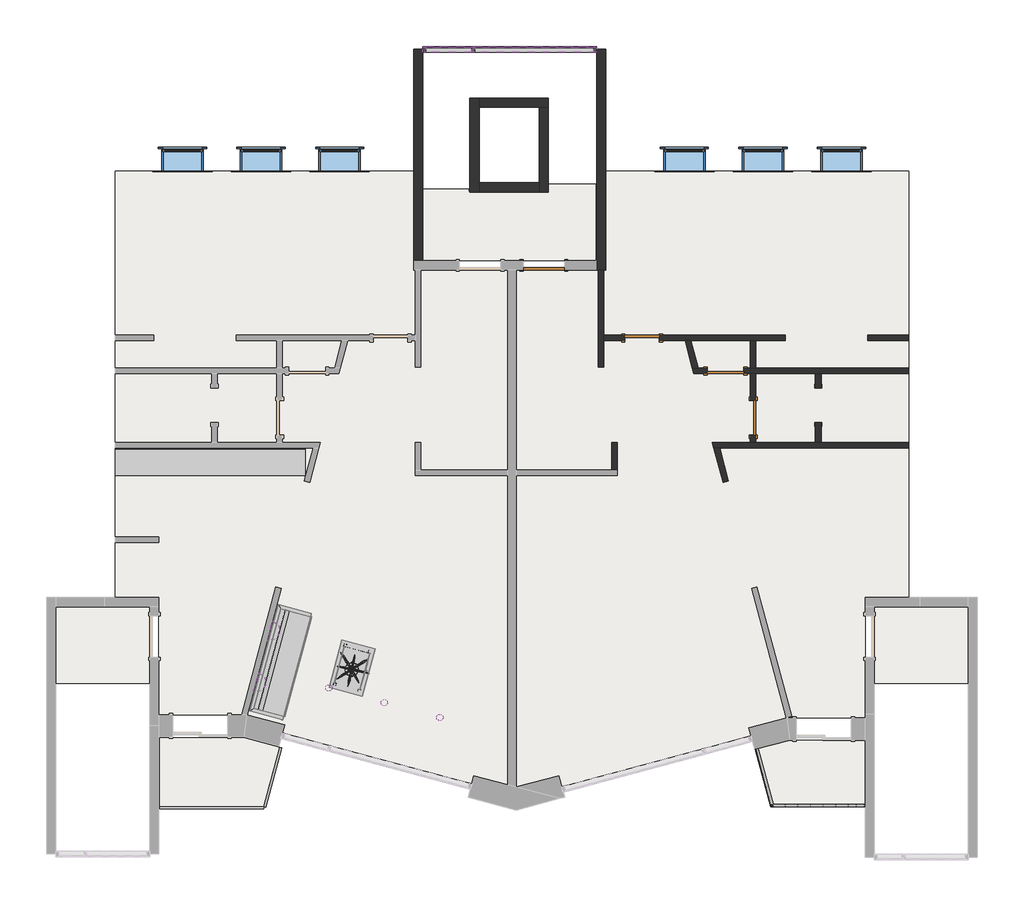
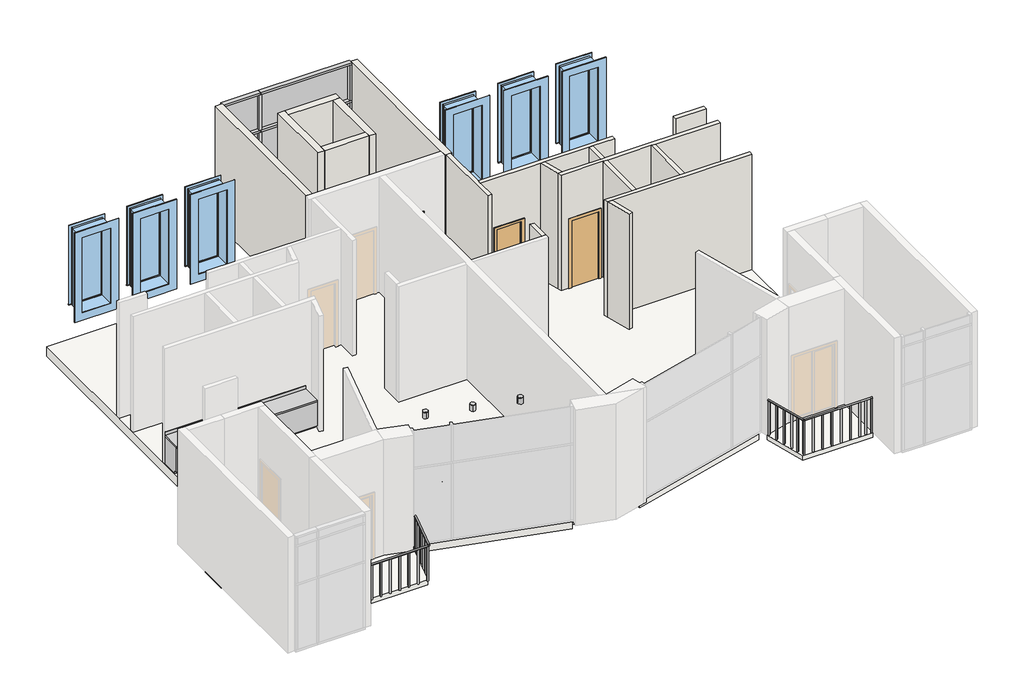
# One storey, part 3 of 3: 17 walls, 12 members, 6 windows, 5 doors, 5 light fixtures, 5 slabs, 4 plates, 3 furniture elements, 3 other elements.
"""IFC4 building model written with IfcOpenShell, lengths in millimetres."""

from ifc_helpers import new_model, si_unit, frame, origin, place, context, project, spatial, polyline, outline, extrude, faceted_brep, transform, mapped, element, save
from components import plant18_plant18_a010a351, door_63e5cb32, door_91cbdfe0, door_39079f6b, door_d21431a2, door_4f2f89b6, furniture_e12269c1, couch05_couch05_e9f14d2e, craftsman02_craftsman02_3f7232b6, recessed_can_5ac0ec6e, sconce_100_watt_incandescent_3f244261, glazed_panel_glazed_panel_8712f61d, glazed_panel_glazed_panel_af7c71ff, glazed_panel_glazed_panel_8a3da2d9, glazed_panel_glazed_panel_b2e43c1a, guardrail_bcd2a140, guardrail_6d44fef6, fixed_153df27d, fixed_cb3a47af

model = new_model("IFC4")

# Units and contexts
model_context = context("Model", 3, world=origin())
ifc_project = project(units=[si_unit("LENGTHUNIT", "METRE", prefix="MILLI")], contexts=[model_context])

# Site, building, storey
site = spatial("IfcSite", under=ifc_project)
building = spatial("IfcBuilding", under=site)
storey = spatial("IfcBuildingStorey", under=building, Name="2nd Flr. Cnst.", Elevation=3657.6)

# Proxy
placement = place(None, origin())
plant18_plant18_shape = plant18_plant18_a010a351(model_context)
element("IfcBuildingElementProxy", 1, Name="Plant18 : Plant18", ObjectType="Plant18 : Plant18", at=placement, inside=storey, context=model_context, shape_type="MappedRepresentation", body=[
    mapped(plant18_plant18_shape, transform((4194.0899927, -1662.8688199, 4038.6), x_axis=(0.8425691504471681, 0.5385881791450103, 0.0), y_axis=(-0.5385881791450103, 0.8425691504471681, 0.0), z_axis=(0.0, 0.0, 1.0))),
])

# Doors
door_shape = door_63e5cb32(model_context)
element("IfcDoor", 2, ObjectType="Cased Opening : 30\" x 80\"", at=placement, inside=storey, context=model_context, shape_type="MappedRepresentation", body=[
    mapped(door_shape, transform((14531.590723, 4191.4326139, 3657.6), x_axis=(0.0, 1.0, 0.0), y_axis=(-1.0, 0.0, 0.0), z_axis=(0.0, 0.0, 1.0))),
])
door_2_shape = door_91cbdfe0(model_context)
element("IfcDoor", 3, ObjectType="Sgl Flush : 30\" x 80\"", at=placement, inside=storey, context=model_context, shape_type="MappedRepresentation", body=[
    mapped(door_2_shape, transform((10629.320756, 5686.8576139, 3657.6), x_axis=(-1.0, 0.0, 0.0), y_axis=(0.0, -1.0, 0.0), z_axis=(0.0, 0.0, 1.0))),
])
door_3_shape = door_39079f6b(model_context)
element("IfcDoor", 4, ObjectType="Sgl Flush : 30\" x 80\"", at=placement, inside=storey, context=model_context, shape_type="MappedRepresentation", body=[
    mapped(door_3_shape, transform((13087.0299225, 3915.2076139, 3657.6), x_axis=(0.0, -1.0, 0.0), y_axis=(1.0, 0.0, 0.0), z_axis=(0.0, 0.0, 1.0))),
])
door_4_shape = door_d21431a2(model_context)
element("IfcDoor", 5, ObjectType="Sgl Flush : 32\" x 84\"", at=placement, inside=storey, context=model_context, shape_type="MappedRepresentation", body=[
    mapped(door_4_shape, transform((12477.4299225, 4953.4326139, 3657.6), x_axis=(1.0, 0.0, 0.0), y_axis=(0.0, 1.0, 0.0), z_axis=(0.0, 0.0, 1.0))),
])
door_5_shape = door_4f2f89b6(model_context)
element("IfcDoor", 6, ObjectType="Sgl Flush : 36\" x 80\"", at=placement, inside=storey, context=model_context, shape_type="MappedRepresentation", body=[
    mapped(door_5_shape, transform((8452.321618, 7296.3007317, 3657.6), x_axis=(-1.0, 0.0, 0.0), y_axis=(0.0, -1.0, 0.0), z_axis=(0.0, 0.0, 1.0))),
])

# Furniture
furniture_shape = furniture_e12269c1(model_context)
element("IfcFurniture", 7, ObjectType="Base Cabinet : 24\" Depth", at=placement, inside=storey, context=model_context, shape_type="MappedRepresentation", body=[
    mapped(furniture_shape, transform((3193.0119532, 3305.6076139, 3657.6), x_axis=(-1.0, 0.0, 0.0), y_axis=(0.0, -1.0, 0.0), z_axis=(0.0, 0.0, 1.0))),
])
couch05_couch05_shape = couch05_couch05_e9f14d2e(model_context)
element("IfcFurniture", 8, ObjectType="Couch05 : Couch05", at=placement, inside=storey, context=model_context, shape_type="MappedRepresentation", body=[
    mapped(couch05_couch05_shape, transform((2250.3504097, -1401.956885, 3657.6), x_axis=(0.9659258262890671, -0.25881904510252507, 0.0), y_axis=(0.25881904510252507, 0.9659258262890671, 0.0), z_axis=(0.0, 0.0, 1.0))),
])
craftsman02_craftsman02_shape = craftsman02_craftsman02_3f7232b6(model_context)
element("IfcFurniture", 9, ObjectType="Craftsman02 : Craftsman02", at=placement, inside=storey, context=model_context, shape_type="MappedRepresentation", body=[
    mapped(craftsman02_craftsman02_shape, transform((3670.3833006, -2054.6340501, 3657.6), x_axis=(0.9659258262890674, -0.2588190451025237, 0.0), y_axis=(0.2588190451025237, 0.9659258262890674, 0.0), z_axis=(0.0, 0.0, 1.0))),
])

# Light fixtures
recessed_can_shape = recessed_can_5ac0ec6e(model_context)
element("IfcLightFixture", 10, ObjectType="Recessed Can : 6\"  60W Incandescent", at=placement, inside=storey, context=model_context, shape_type="MappedRepresentation", body=[
    mapped(recessed_can_shape, transform((4916.5332187, -2399.1474323, 4267.2), x_axis=(0.2588190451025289, 0.9659258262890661, 0.0), y_axis=(-0.9659258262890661, 0.2588190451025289, 0.0), z_axis=(0.0, 0.0, 1.0))),
])
element("IfcLightFixture", 11, ObjectType="Recessed Can : 6\"  60W Incandescent", at=placement, inside=storey, context=model_context, shape_type="MappedRepresentation", body=[
    mapped(recessed_can_shape, transform((6149.7465467, -2729.5859476, 4267.2), x_axis=(0.9659258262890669, -0.2588190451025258, 0.0), y_axis=(0.2588190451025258, 0.9659258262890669, 0.0), z_axis=(0.0, 0.0, 1.0))),
])
element("IfcLightFixture", 12, ObjectType="Recessed Can : 6\"  60W Incandescent", at=placement, inside=storey, context=model_context, shape_type="MappedRepresentation", body=[
    mapped(recessed_can_shape, transform((3689.8074193, -2070.447245, 4267.2), x_axis=(0.2588190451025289, 0.9659258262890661, 0.0), y_axis=(-0.9659258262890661, 0.2588190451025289, 0.0), z_axis=(0.0, 0.0, 1.0))),
])
sconce_100_watt_incandescent_shape = sconce_100_watt_incandescent_3f244261(model_context)
element("IfcLightFixture", 13, ObjectType="Sconce : 100 watt incandescent", at=placement, inside=storey, context=model_context, shape_type="MappedRepresentation", body=[
    mapped(sconce_100_watt_incandescent_shape, transform((2015.9128266, -1933.1186288, 3657.6), x_axis=(-0.2588190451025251, -0.9659258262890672, 0.0), y_axis=(0.9659258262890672, -0.2588190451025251, 0.0), z_axis=(0.0, 0.0, 1.0))),
])
element("IfcLightFixture", 14, ObjectType="Sconce : 100 watt incandescent", at=placement, inside=storey, context=model_context, shape_type="MappedRepresentation", body=[
    mapped(sconce_100_watt_incandescent_shape, transform((2323.4163184, -785.4999739, 3657.6), x_axis=(-0.2588190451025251, -0.9659258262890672, 0.0), y_axis=(0.9659258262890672, -0.2588190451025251, 0.0), z_axis=(0.0, 0.0, 1.0))),
])

# Members
element("IfcMember", 15, ObjectType="Rectangular Mullion : 2.5\" x 5\" rectangular", at=placement, inside=storey, context=model_context, shape_type="SweptSolid", body=[
    extrude(outline(polyline([(6917.209118, 12018.2827027), (6853.709118, 12018.2827027), (6853.709118, 12145.2827027), (6917.209118, 12145.2827027), (6917.209118, 12018.2827027)])), frame((0.0, 0.0, 3721.1), z_axis=(0.0, 0.0, 1.0), x_axis=(1.0, 0.0, 0.0)), (0.0, 0.0, 1.0), 2343.15),
])
element("IfcMember", 16, ObjectType="Rectangular Mullion : 2.5\" x 5\" rectangular", at=placement, inside=storey, context=model_context, shape_type="SweptSolid", body=[
    extrude(outline(polyline([(6917.209118, 12018.2827027), (6853.709118, 12018.2827027), (6853.709118, 12145.2827027), (6917.209118, 12145.2827027), (6917.209118, 12018.2827027)])), frame((0.0, 0.0, 6127.75), z_axis=(0.0, 0.0, 1.0), x_axis=(1.0, 0.0, 0.0)), (0.0, 0.0, 1.0), 1123.95),
])
element("IfcMember", 17, ObjectType="Rectangular Mullion : 2.5\" x 5\" rectangular", at=placement, inside=storey, context=model_context, shape_type="SweptSolid", body=[
    extrude(outline(polyline([(9618.6821195, 12018.2827027), (9555.1821195, 12018.2827027), (9555.1821195, 12145.2827027), (9618.6821195, 12145.2827027), (9618.6821195, 12018.2827027)])), frame((0.0, 0.0, 3721.1), z_axis=(0.0, 0.0, 1.0), x_axis=(1.0, 0.0, 0.0)), (0.0, 0.0, 1.0), 2343.15),
])
element("IfcMember", 18, ObjectType="Rectangular Mullion : 2.5\" x 5\" rectangular", at=placement, inside=storey, context=model_context, shape_type="SweptSolid", body=[
    extrude(outline(polyline([(9618.6821195, 12018.2827027), (9555.1821195, 12018.2827027), (9555.1821195, 12145.2827027), (9618.6821195, 12145.2827027), (9618.6821195, 12018.2827027)])), frame((0.0, 0.0, 6127.75), z_axis=(0.0, 0.0, 1.0), x_axis=(1.0, 0.0, 0.0)), (0.0, 0.0, 1.0), 1123.95),
])
element("IfcMember", 19, ObjectType="Rectangular Mullion : 2.5\" x 5\" rectangular", at=placement, inside=storey, context=model_context, shape_type="SweptSolid", body=[
    extrude(outline(polyline([(6885.459118, 12145.2827027), (6885.459118, 12018.2827027), (5767.859118, 12018.2827027), (5767.859118, 12145.2827027), (6885.459118, 12145.2827027)])), frame((0.0, 0.0, 6064.25), z_axis=(0.0, 0.0, 1.0), x_axis=(1.0, 0.0, 0.0)), (0.0, 0.0, 1.0), 63.5),
])
element("IfcMember", 20, ObjectType="Rectangular Mullion : 2.5\" x 5\" rectangular", at=placement, inside=storey, context=model_context, shape_type="SweptSolid", body=[
    extrude(outline(polyline([(9618.6821195, 12145.2827027), (9618.6821195, 12018.2827027), (6885.459118, 12018.2827027), (6885.459118, 12145.2827027), (9618.6821195, 12145.2827027)])), frame((0.0, 0.0, 6064.25), z_axis=(0.0, 0.0, 1.0), x_axis=(1.0, 0.0, 0.0)), (0.0, 0.0, 1.0), 63.5),
])
element("IfcMember", 21, ObjectType="Rectangular Mullion : 2.5\" x 5\" rectangular", at=placement, inside=storey, context=model_context, shape_type="SweptSolid", body=[
    extrude(outline(polyline([(5767.859118, 12018.2827027), (5767.859118, 12145.2827027), (5831.359118, 12145.2827027), (5831.359118, 12018.2827027), (5767.859118, 12018.2827027)])), frame((0.0, 0.0, 6127.75), z_axis=(0.0, 0.0, 1.0), x_axis=(1.0, 0.0, 0.0)), (0.0, 0.0, 1.0), 1123.95),
])
element("IfcMember", 22, ObjectType="Rectangular Mullion : 2.5\" x 5\" rectangular", at=placement, inside=storey, context=model_context, shape_type="SweptSolid", body=[
    extrude(outline(polyline([(5767.859118, 12018.2827027), (5767.859118, 12145.2827027), (5831.359118, 12145.2827027), (5831.359118, 12018.2827027), (5767.859118, 12018.2827027)])), frame((0.0, 0.0, 3721.1), z_axis=(0.0, 0.0, 1.0), x_axis=(1.0, 0.0, 0.0)), (0.0, 0.0, 1.0), 2343.15),
])
element("IfcMember", 23, ObjectType="Rectangular Mullion : 2.5\" x 5\" rectangular", at=placement, inside=storey, context=model_context, shape_type="SweptSolid", body=[
    extrude(outline(polyline([(5767.859118, 12018.2827027), (5767.859118, 12145.2827027), (6885.459118, 12145.2827027), (6885.459118, 12018.2827027), (5767.859118, 12018.2827027)])), frame((0.0, 0.0, 3657.6), z_axis=(0.0, 0.0, 1.0), x_axis=(1.0, 0.0, 0.0)), (0.0, 0.0, 1.0), 63.5),
])
element("IfcMember", 24, ObjectType="Rectangular Mullion : 2.5\" x 5\" rectangular", at=placement, inside=storey, context=model_context, shape_type="SweptSolid", body=[
    extrude(outline(polyline([(9618.6821195, 12145.2827027), (9618.6821195, 12018.2827027), (6885.459118, 12018.2827027), (6885.459118, 12145.2827027), (9618.6821195, 12145.2827027)])), frame((0.0, 0.0, 7251.7), z_axis=(0.0, 0.0, 1.0), x_axis=(1.0, 0.0, 0.0)), (0.0, 0.0, 1.0), 63.5),
])
element("IfcMember", 25, ObjectType="Rectangular Mullion : 2.5\" x 5\" rectangular", at=placement, inside=storey, context=model_context, shape_type="SweptSolid", body=[
    extrude(outline(polyline([(6885.459118, 12018.2827027), (6885.459118, 12145.2827027), (9618.6821195, 12145.2827027), (9618.6821195, 12018.2827027), (6885.459118, 12018.2827027)])), frame((0.0, 0.0, 3657.6), z_axis=(0.0, 0.0, 1.0), x_axis=(1.0, 0.0, 0.0)), (0.0, 0.0, 1.0), 63.5),
])
element("IfcMember", 26, ObjectType="Rectangular Mullion : 2.5\" x 5\" rectangular", at=placement, inside=storey, context=model_context, shape_type="SweptSolid", body=[
    extrude(outline(polyline([(6885.459118, 12145.2827027), (6885.459118, 12018.2827027), (5767.859118, 12018.2827027), (5767.859118, 12145.2827027), (6885.459118, 12145.2827027)])), frame((0.0, 0.0, 7251.7), z_axis=(0.0, 0.0, 1.0), x_axis=(1.0, 0.0, 0.0)), (0.0, 0.0, 1.0), 63.5),
])

# Plates
glazed_panel_glazed_panel_shape = glazed_panel_glazed_panel_8712f61d(model_context)
element("IfcPlate", 27, ObjectType="Glazed Panel : Glazed Panel", at=placement, inside=storey, context=model_context, shape_type="MappedRepresentation", body=[
    mapped(glazed_panel_glazed_panel_shape, transform((6342.534118, 12081.7827027, 3721.1), x_axis=(1.0, 0.0, 0.0), y_axis=(0.0, 1.0, 0.0), z_axis=(0.0, 0.0, 1.0))),
])
glazed_panel_glazed_panel_2_shape = glazed_panel_glazed_panel_af7c71ff(model_context)
element("IfcPlate", 28, ObjectType="Glazed Panel : Glazed Panel", at=placement, inside=storey, context=model_context, shape_type="MappedRepresentation", body=[
    mapped(glazed_panel_glazed_panel_2_shape, transform((8236.1956187, 12081.7827027, 3721.1), x_axis=(1.0, 0.0, 0.0), y_axis=(0.0, 1.0, 0.0), z_axis=(0.0, 0.0, 1.0))),
])
glazed_panel_glazed_panel_3_shape = glazed_panel_glazed_panel_8a3da2d9(model_context)
element("IfcPlate", 29, ObjectType="Glazed Panel : Glazed Panel", at=placement, inside=storey, context=model_context, shape_type="MappedRepresentation", body=[
    mapped(glazed_panel_glazed_panel_3_shape, transform((6342.534118, 12081.7827027, 6127.75), x_axis=(1.0, 0.0, 0.0), y_axis=(0.0, 1.0, 0.0), z_axis=(0.0, 0.0, 1.0))),
])
glazed_panel_glazed_panel_4_shape = glazed_panel_glazed_panel_b2e43c1a(model_context)
element("IfcPlate", 30, ObjectType="Glazed Panel : Glazed Panel", at=placement, inside=storey, context=model_context, shape_type="MappedRepresentation", body=[
    mapped(glazed_panel_glazed_panel_4_shape, transform((8236.1956187, 12081.7827027, 6127.75), x_axis=(1.0, 0.0, 0.0), y_axis=(0.0, 1.0, 0.0), z_axis=(0.0, 0.0, 1.0))),
])

# Railings
guardrail_shape = guardrail_bcd2a140(model_context)
element("IfcRailing", 31, ObjectType="Guardrail", at=placement, inside=storey, context=model_context, shape_type="MappedRepresentation", body=[
    mapped(guardrail_shape, transform((0.0, 0.0, 0.0), x_axis=(1.0, 0.0, 0.0), y_axis=(0.0, 1.0, 0.0), z_axis=(0.0, 0.0, 1.0))),
])
guardrail_2_shape = guardrail_6d44fef6(model_context)
element("IfcRailing", 32, ObjectType="Guardrail", at=placement, inside=storey, context=model_context, shape_type="MappedRepresentation", body=[
    mapped(guardrail_2_shape, transform((0.0, 0.0, 0.0), x_axis=(1.0, 0.0, 0.0), y_axis=(0.0, 1.0, 0.0), z_axis=(0.0, 0.0, 1.0))),
])

# Slabs
element("IfcSlab", 33, ObjectType="Balcony", at=placement, inside=storey, context=model_context, shape_type="SweptSolid", body=[
    extrude(outline(polyline([(-59.7876791, -4699.4348943), (-59.7876791, -3179.6774712), (1820.1344455, -3179.6774712), (2595.4908987, -3387.4336067), (2243.9412132, -4699.4348943), (-59.7876791, -4699.4348943)])), frame((0.0, 0.0, 3505.2), z_axis=(0.0, 0.0, 1.0), x_axis=(1.0, 0.0, 0.0)), (0.0, 0.0, 1.0), 152.4),
])
element("IfcSlab", 34, ObjectType="Balcony", at=placement, inside=storey, context=model_context, shape_type="SweptSolid", body=[
    extrude(outline(polyline([(15569.084118, -4704.3653971), (13475.6931658, -4704.3653971), (13135.3399896, -3434.1500509), (13897.7849057, -3229.8535513), (15569.084118, -3229.8535513), (15569.084118, -4704.3653971)])), frame((0.0, 0.0, 3505.2), z_axis=(0.0, 0.0, 1.0), x_axis=(1.0, 0.0, 0.0)), (0.0, 0.0, 1.0), 152.4),
])
element("IfcSlab", 35, ObjectType="Floor 1", at=placement, inside=storey, context=model_context, shape_type="SweptSolid", body=[
    extrude(outline(polyline([(-2363.315882, -268.4202344), (-280.515882, -268.4202344), (-280.515882, -1969.1115872), (-2363.315882, -1969.1115872), (-2363.315882, -268.4202344)])), frame((0.0, 0.0, 3352.8), z_axis=(0.0, 0.0, 1.0), x_axis=(1.0, 0.0, 0.0)), (0.0, 0.0, 1.0), 304.8),
    extrude(outline(polyline([(15777.046618, -268.4202344), (17859.846618, -268.4202344), (17859.846618, -1969.1115872), (15777.046618, -1969.1115872), (15777.046618, -268.4202344)])), frame((0.0, 0.0, 3352.8), z_axis=(0.0, 0.0, 1.0), x_axis=(1.0, 0.0, 0.0)), (0.0, 0.0, 1.0), 304.8),
])
element("IfcSlab", 36, ObjectType="Floor 1", at=placement, inside=storey, context=model_context, shape_type="SweptSolid", body=[
    extrude(outline(polyline([(-1048.0846659, 9380.1125462), (4952.6653341, 9380.1125462), (5562.2653341, 9380.1125462), (5562.2653341, 7192.5375462), (9821.8821195, 7192.5375462), (9821.8821195, 9380.1125462), (16539.8529019, 9380.1125462), (16539.8529019, -71.8624538), (15571.4779019, -71.8624538), (15569.084118, -2734.5535513), (13832.5774236, -2734.5535513), (13010.171015, -2954.9166844), (13057.8325422, -3132.7919253), (8846.3889199, -4261.2448428), (8780.8000017, -4016.4636678), (7788.8055378, -4282.2677833), (6903.4106086, -4016.1333867), (6855.7490815, -4194.0086277), (2659.7268674, -3069.687864), (2707.3883946, -2891.8126231), (1867.8137247, -2666.8492683), (1748.4633391, -2669.0124538), (-79.7096659, -2669.0124538), (-79.7096659, -71.8624538), (-1048.0846659, -71.8624538), (-1048.0846659, 9380.1125462)])), frame((0.0, 0.0, 3352.8), z_axis=(0.0, 0.0, 1.0), x_axis=(1.0, 0.0, 0.0)), (0.0, 0.0, 1.0), 304.8),
])
element("IfcSlab", 37, ObjectType="Floor 1", at=placement, inside=storey, context=model_context, shape_type="SweptSolid", body=[
    extrude(outline(polyline([(9597.9648806, 7405.4508349), (5747.1418792, 7405.4508349), (5747.1418792, 8987.4828084), (6792.8927449, 8987.4828084), (6792.8927449, 8929.4508349), (8531.1648806, 8929.4508349), (8529.0050904, 9098.7522077), (9597.9648806, 9098.7522077), (9597.9648806, 7405.4508349)])), frame((0.0, 0.0, 3352.8), z_axis=(0.0, 0.0, 1.0), x_axis=(1.0, 0.0, 0.0)), (0.0, 0.0, 1.0), 304.8),
])

# Walls
element("IfcWall", 38, ObjectType="Cohouse - Exterior - Conc", at=placement, inside=storey, context=model_context, shape_type="Brep", body=[
    faceted_brep([(9821.8821195, 7194.7007317, 3657.6), (9821.8821195, 12081.7827027, 3657.6), (9821.8821195, 12081.7827027, 7315.2), (9821.8821195, 7194.7007317, 7315.2), (9618.6821195, 7194.7007317, 3657.6), (9618.6821195, 7194.7007317, 7315.2), (9618.6821195, 7397.9007317, 7315.2), (9618.6821195, 12081.7827027, 7315.2), (9618.6821195, 12081.7827027, 3657.6), (9618.6821195, 7397.9007317, 3657.6), (9782.1946195, 7194.7007317, 3657.6), (9658.3696195, 7194.7007317, 3657.6), (9658.3696195, 7194.7007317, 7315.2), (9782.1946195, 7194.7007317, 7315.2)], [[[0, 1, 2, 3]], [[4, 5, 6, 7, 8, 9]], [[1, 0, 10, 11, 4, 9, 8]], [[2, 1, 8, 7]], [[3, 2, 7, 6, 5, 12, 13]], [[0, 3, 13, 12, 5, 4, 11, 10]]]),
])
element("IfcWall", 39, ObjectType="Cohouse - Exterior - Conc", at=placement, inside=storey, context=model_context, shape_type="Brep", body=[
    faceted_brep([(7016.8099837, 8921.9007317, 3657.6), (7016.8099837, 9125.1007317, 3657.6), (7016.8099837, 10796.4050593, 3657.6), (7016.8099837, 10999.6050593, 3657.6), (7016.8099837, 10999.6050593, 7315.2), (7016.8099837, 10796.4050593, 7315.2), (7016.8099837, 9125.1007317, 7315.2), (7016.8099837, 8921.9007317, 7315.2), (6813.6099837, 8921.9007317, 3657.6), (6813.6099837, 8921.9007317, 7315.2), (6813.6099837, 10999.6050593, 7315.2), (6813.6099837, 10999.6050593, 3657.6)], [[[0, 1, 2, 3, 4, 5, 6, 7]], [[8, 9, 10, 11]], [[3, 2, 1, 0, 8, 11]], [[7, 6, 5, 4, 10, 9]], [[4, 3, 11, 10]], [[0, 7, 9, 8]]]),
])
element("IfcWall", 40, ObjectType="Cohouse - Exterior - Conc", at=placement, inside=storey, context=model_context, shape_type="Brep", body=[
    faceted_brep([(7016.8099837, 10796.4050593, 3657.6), (8348.6821195, 10796.4050593, 3657.6), (8551.8821195, 10796.4050593, 3657.6), (8551.8821195, 10796.4050593, 7315.2), (8348.6821195, 10796.4050593, 7315.2), (7016.8099837, 10796.4050593, 7315.2), (7016.8099837, 10999.6050593, 3657.6), (7016.8099837, 10999.6050593, 7315.2), (8551.8821195, 10999.6050593, 7315.2), (8551.8821195, 10999.6050593, 3657.6)], [[[0, 1, 2, 3, 4, 5]], [[6, 7, 8, 9]], [[2, 1, 0, 6, 9]], [[5, 4, 3, 8, 7]], [[3, 2, 9, 8]], [[0, 5, 7, 6]]]),
])
element("IfcWall", 41, ObjectType="Cohouse - Exterior - Conc", at=placement, inside=storey, context=model_context, shape_type="Brep", body=[
    faceted_brep([(8348.6821195, 10796.4050593, 3657.6), (8348.6821195, 9125.1007317, 3657.6), (8348.6821195, 8921.9007317, 3657.6), (8348.6821195, 8921.9007317, 7315.2), (8348.6821195, 9125.1007317, 7315.2), (8348.6821195, 10796.4050593, 7315.2), (8551.8821195, 10796.4050593, 3657.6), (8551.8821195, 10796.4050593, 7315.2), (8551.8821195, 8921.9007317, 7315.2), (8551.8821195, 8921.9007317, 3657.6)], [[[0, 1, 2, 3, 4, 5]], [[6, 7, 8, 9]], [[2, 1, 0, 6, 9]], [[5, 4, 3, 8, 7]], [[3, 2, 9, 8]], [[0, 5, 7, 6]]]),
])
element("IfcWall", 42, ObjectType="Cohouse - Exterior - Conc", at=placement, inside=storey, context=model_context, shape_type="SweptSolid", body=[
    extrude(outline(polyline([(8348.6821195, 8921.9007317), (7016.8099837, 8921.9007317), (7016.8099837, 9125.1007317), (8348.6821195, 9125.1007317), (8348.6821195, 8921.9007317)])), frame((0.0, 0.0, 3657.6), z_axis=(0.0, 0.0, 1.0), x_axis=(1.0, 0.0, 0.0)), (0.0, 0.0, 1.0), 3657.6),
])
element("IfcWall", 43, ObjectType="Cohouse - Exterior - Conc", at=placement, inside=storey, context=model_context, shape_type="SweptSolid", body=[
    extrude(outline(polyline([(5767.859118, 12081.7827027), (5767.859118, 7397.9007317), (5564.659118, 7397.9007317), (5564.659118, 12081.7827027), (5767.859118, 12081.7827027)])), frame((0.0, 0.0, 3657.6), z_axis=(0.0, 0.0, 1.0), x_axis=(1.0, 0.0, 0.0)), (0.0, 0.0, 1.0), 3657.6),
])
element("IfcWall", 44, ObjectType="Cohouse - Interior - 4 7/8\" Partition (1-hr)", at=placement, inside=storey, context=model_context, shape_type="Brep", body=[
    faceted_brep([(9658.3696195, 7194.7007317, 3657.6), (9658.3696195, 5043.9201139, 3657.6), (9658.3696195, 5043.9201139, 7315.2), (9658.3696195, 7194.7007317, 7315.2), (9782.1946195, 7194.7007317, 3657.6), (9782.1946195, 7194.7007317, 7315.2), (9782.1946195, 5748.7701139, 7315.2), (9782.1946195, 5624.9451139, 7315.2), (9782.1946195, 5043.9201139, 7315.2), (9782.1946195, 5043.9201139, 3657.6), (9782.1946195, 5624.9451139, 3657.6), (9782.1946195, 5748.7701139, 3657.6)], [[[0, 1, 2, 3]], [[4, 5, 6, 7, 8, 9, 10, 11]], [[1, 0, 4, 11, 10, 9]], [[2, 1, 9, 8]], [[3, 2, 8, 7, 6, 5]], [[0, 3, 5, 4]]]),
])
element("IfcWall", 45, ObjectType="Cohouse - Interior - 4 7/8\" Partition (1-hr)", at=placement, inside=storey, context=model_context, shape_type="Brep", body=[
    faceted_brep([(16537.459118, 3367.5201139, 3657.6), (14593.503223, 3367.5201139, 3657.6), (14469.678223, 3367.5201139, 3657.6), (13148.9424225, 3367.5201139, 3657.6), (13025.1174225, 3367.5201139, 3657.6), (12185.6686404, 3367.5201139, 3657.6), (12185.6686404, 3367.5201139, 7315.2), (13025.1174225, 3367.5201139, 7315.2), (13148.9424225, 3367.5201139, 7315.2), (14469.678223, 3367.5201139, 7315.2), (14593.503223, 3367.5201139, 7315.2), (16537.459118, 3367.5201139, 7315.2), (16537.459118, 3243.6951139, 3657.6), (16537.459118, 3243.6951139, 7315.2), (12347.0405222, 3243.6951139, 7315.2), (12218.8474492, 3243.6951139, 7315.2), (12218.8474492, 3243.6951139, 3657.6), (12347.0405222, 3243.6951139, 3657.6)], [[[0, 1, 2, 3, 4, 5, 6, 7, 8, 9, 10, 11]], [[12, 13, 14, 15, 16, 17]], [[5, 4, 3, 2, 1, 0, 12, 17, 16]], [[11, 10, 9, 8, 7, 6, 15, 14, 13]], [[6, 5, 16, 15]], [[0, 11, 13, 12]]]),
])
element("IfcWall", 46, ObjectType="Cohouse - Interior - 4 7/8\" Partition (1-hr)", at=placement, inside=storey, context=model_context, shape_type="SweptSolid", body=[
    extrude(outline(polyline([(12347.0405222, 3243.6951139), (12541.4499364, 2518.1493026), (12421.844171, 2486.1010344), (12218.8474492, 3243.6951139), (12347.0405222, 3243.6951139)])), frame((0.0, 0.0, 3657.6), z_axis=(0.0, 0.0, 1.0), x_axis=(1.0, 0.0, 0.0)), (0.0, 0.0, 1.0), 3657.6),
])
element("IfcWall", 47, ObjectType="Cohouse - Interior - 4 7/8\" Partition (1-hr)", at=placement, inside=storey, context=model_context, shape_type="SweptSolid", body=[
    extrude(outline(polyline([(10081.633256, 3367.5201139), (10081.633256, 2757.9201139), (9957.808256, 2757.9201139), (9957.808256, 3367.5201139), (10081.633256, 3367.5201139)])), frame((0.0, 0.0, 3657.6), z_axis=(0.0, 0.0, 1.0), x_axis=(1.0, 0.0, 0.0)), (0.0, 0.0, 1.0), 3657.6),
])
element("IfcWall", 48, ObjectType="Cohouse - Interior - 4 7/8\" Partition (1-hr)", at=placement, inside=storey, context=model_context, shape_type="Brep", body=[
    faceted_brep([(16537.459118, 5015.3451139, 3657.6), (13148.9424225, 5015.3451139, 3657.6), (13025.1174225, 5015.3451139, 3657.6), (12883.8299225, 5015.3451139, 3657.6), (12883.8299225, 5015.3451139, 5791.2), (12071.0299225, 5015.3451139, 5791.2), (12071.0299225, 5015.3451139, 3657.6), (11872.3283355, 5015.3451139, 3657.6), (11744.1352624, 5015.3451139, 3657.6), (11744.1352624, 5015.3451139, 7315.2), (11872.3283355, 5015.3451139, 7315.2), (13025.1174225, 5015.3451139, 7315.2), (13148.9424225, 5015.3451139, 7315.2), (16537.459118, 5015.3451139, 7315.2), (12883.8299225, 4891.5201139, 5791.2), (12883.8299225, 4891.5201139, 3657.6), (13025.1174225, 4891.5201139, 3657.6), (13148.9424225, 4891.5201139, 3657.6), (14469.678223, 4891.5201139, 3657.6), (14593.503223, 4891.5201139, 3657.6), (16537.459118, 4891.5201139, 3657.6), (16537.459118, 4891.5201139, 7315.2), (14593.503223, 4891.5201139, 7315.2), (14469.678223, 4891.5201139, 7315.2), (13148.9424225, 4891.5201139, 7315.2), (13025.1174225, 4891.5201139, 7315.2), (11777.3140712, 4891.5201139, 7315.2), (11777.3140712, 4891.5201139, 3657.6), (12071.0299225, 4891.5201139, 3657.6), (12071.0299225, 4891.5201139, 5791.2)], [[[0, 1, 2, 3, 4, 5, 6, 7, 8, 9, 10, 11, 12, 13]], [[14, 15, 16, 17, 18, 19, 20, 21, 22, 23, 24, 25, 26, 27, 28, 29]], [[20, 19, 18, 17, 16, 15, 3, 2, 1, 0]], [[28, 27, 8, 7, 6]], [[13, 12, 11, 10, 9, 26, 25, 24, 23, 22, 21]], [[9, 8, 27, 26]], [[0, 13, 21, 20]], [[4, 3, 15, 14]], [[5, 4, 14, 29]], [[6, 5, 29, 28]]]),
])
element("IfcWall", 49, ObjectType="Cohouse - Interior - 4 7/8\" Partition (1-hr)", at=placement, inside=storey, context=model_context, shape_type="SweptSolid", body=[
    extrude(outline(polyline([(13148.9424225, 5624.9451139), (13148.9424225, 5015.3451139), (13025.1174225, 5015.3451139), (13025.1174225, 5624.9451139), (13148.9424225, 5624.9451139)])), frame((0.0, 0.0, 3657.6), z_axis=(0.0, 0.0, 1.0), x_axis=(1.0, 0.0, 0.0)), (0.0, 0.0, 1.0), 3657.6),
])
element("IfcWall", 50, ObjectType="Cohouse - Interior - 4 7/8\" Partition (1-hr)", at=placement, inside=storey, context=model_context, shape_type="SweptSolid", body=[
    extrude(outline(polyline([(15627.5845539, 5748.7701139), (16537.459118, 5748.7701139), (16537.459118, 5624.9451139), (15627.5845539, 5624.9451139), (15627.5845539, 5748.7701139)])), frame((0.0, 0.0, 3657.6), z_axis=(0.0, 0.0, 1.0), x_axis=(1.0, 0.0, 0.0)), (0.0, 0.0, 1.0), 3657.6),
])
element("IfcWall", 51, ObjectType="Cohouse - Interior - 4 7/8\" Partition (1-hr)", at=placement, inside=storey, context=model_context, shape_type="SweptSolid", body=[
    extrude(outline(polyline([(3534.2076139, 5689.6), (3534.2076139, 3657.6), (3367.5201139, 3657.6), (3367.5201139, 7315.2), (4891.5201139, 7315.2), (4891.5201139, 3657.6), (4296.2076139, 3657.6), (4296.2076139, 5689.6), (3534.2076139, 5689.6)])), frame((13025.1174225, 0.0, 0.0), z_axis=(1.0, 0.0, 0.0), x_axis=(0.0, 1.0, 0.0)), (0.0, 0.0, 1.0), 123.825),
])
element("IfcWall", 52, ObjectType="Cohouse - Interior - 4 7/8\" Partition (1-hr)", at=placement, inside=storey, context=model_context, shape_type="SweptSolid", body=[
    extrude(outline(polyline([(11708.9865077, 5624.9451139), (11872.3283355, 5015.3451139), (11744.1352624, 5015.3451139), (11580.7934347, 5624.9451139), (11708.9865077, 5624.9451139)])), frame((0.0, 0.0, 3657.6), z_axis=(0.0, 0.0, 1.0), x_axis=(1.0, 0.0, 0.0)), (0.0, 0.0, 1.0), 3657.6),
])
element("IfcWall", 53, ObjectType="Cohouse - Interior - 4 7/8\" Partition (1-hr)", at=placement, inside=storey, context=model_context, shape_type="SweptSolid", body=[
    extrude(outline(polyline([(4891.5201139, 3657.6), (4572.4326139, 3657.6), (4572.4326139, 5689.6), (3810.4326139, 5689.6), (3810.4326139, 3657.6), (3367.5201139, 3657.6), (3367.5201139, 7315.2), (4891.5201139, 7315.2), (4891.5201139, 3657.6)])), frame((14469.678223, 0.0, 0.0), z_axis=(1.0, 0.0, 0.0), x_axis=(0.0, 1.0, 0.0)), (0.0, 0.0, 1.0), 123.825),
])
element("IfcWall", 54, ObjectType="Cohouse - Interior - 4 7/8\" Partition (1-hr)", at=placement, inside=storey, context=model_context, shape_type="Brep", body=[
    faceted_brep([(10248.320756, 5748.7701139, 5689.6), (10248.320756, 5748.7701139, 3657.6), (9782.1946195, 5748.7701139, 3657.6), (9782.1946195, 5748.7701139, 7315.2), (13798.7845539, 5748.7701139, 7315.2), (13798.7845539, 5748.7701139, 3657.6), (11010.320756, 5748.7701139, 3657.6), (11010.320756, 5748.7701139, 5689.6), (9782.1946195, 5624.9451139, 3657.6), (10248.320756, 5624.9451139, 3657.6), (10248.320756, 5624.9451139, 5689.6), (11010.320756, 5624.9451139, 5689.6), (11010.320756, 5624.9451139, 3657.6), (11580.7934347, 5624.9451139, 3657.6), (11708.9865077, 5624.9451139, 3657.6), (13025.1174225, 5624.9451139, 3657.6), (13148.9424225, 5624.9451139, 3657.6), (13798.7845539, 5624.9451139, 3657.6), (13798.7845539, 5624.9451139, 7315.2), (13148.9424225, 5624.9451139, 7315.2), (13025.1174225, 5624.9451139, 7315.2), (11708.9865077, 5624.9451139, 7315.2), (11580.7934347, 5624.9451139, 7315.2), (9782.1946195, 5624.9451139, 7315.2)], [[[0, 1, 2, 3, 4, 5, 6, 7]], [[8, 9, 10, 11, 12, 13, 14, 15, 16, 17, 18, 19, 20, 21, 22, 23]], [[2, 1, 9, 8]], [[6, 5, 17, 16, 15, 14, 13, 12]], [[4, 3, 23, 22, 21, 20, 19, 18]], [[5, 4, 18, 17]], [[3, 2, 8, 23]], [[10, 9, 1, 0]], [[11, 10, 0, 7]], [[12, 11, 7, 6]]]),
])

# Windows
fixed_shape = fixed_153df27d(model_context)
element("IfcWindow", 55, ObjectType="Fixed : 36\"w x 72\"h", at=placement, inside=storey, context=model_context, shape_type="MappedRepresentation", body=[
    mapped(fixed_shape, transform((11603.5092681, 9634.5747391, 4021.7325902), x_axis=(0.999999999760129, 2.1903008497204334e-05, 0.0), y_axis=(-2.1903008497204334e-05, 0.999999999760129, 0.0), z_axis=(0.0, 0.0, 1.0))),
])
element("IfcWindow", 56, ObjectType="Fixed : 36\"w x 72\"h", at=placement, inside=storey, context=model_context, shape_type="MappedRepresentation", body=[
    mapped(fixed_shape, transform((15083.3092664, 9634.6509572, 4021.7325902), x_axis=(0.999999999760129, 2.1903008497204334e-05, 0.0), y_axis=(-2.1903008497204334e-05, 0.999999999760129, 0.0), z_axis=(0.0, 0.0, 1.0))),
])
element("IfcWindow", 57, ObjectType="Fixed : 36\"w x 72\"h", at=placement, inside=storey, context=model_context, shape_type="MappedRepresentation", body=[
    mapped(fixed_shape, transform((2224.5589688, 9634.6111791, 4021.7325902), x_axis=(0.9999999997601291, -2.1903008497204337e-05, 0.0), y_axis=(2.1903008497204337e-05, 0.9999999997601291, 0.0), z_axis=(0.0, 0.0, 1.0))),
])
fixed_2_shape = fixed_cb3a47af(model_context)
element("IfcWindow", 58, ObjectType="Fixed : 36\"w x 72\"h", at=placement, inside=storey, context=model_context, shape_type="MappedRepresentation", body=[
    mapped(fixed_2_shape, transform((13267.2092673, 9634.6111791, 4021.7325902), x_axis=(-0.999999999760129, -2.1903008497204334e-05, 0.0), y_axis=(2.1903008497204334e-05, -0.999999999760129, 0.0), z_axis=(0.0, 0.0, 1.0))),
])
element("IfcWindow", 59, ObjectType="Fixed : 36\"w x 72\"h", at=placement, inside=storey, context=model_context, shape_type="MappedRepresentation", body=[
    mapped(fixed_2_shape, transform((3888.2589679, 9634.5747391, 4021.7325902), x_axis=(-0.9999999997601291, 2.1903008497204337e-05, 0.0), y_axis=(-2.1903008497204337e-05, -0.9999999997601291, 0.0), z_axis=(0.0, 0.0, 1.0))),
])
element("IfcWindow", 60, ObjectType="Fixed : 36\"w x 72\"h", at=placement, inside=storey, context=model_context, shape_type="MappedRepresentation", body=[
    mapped(fixed_2_shape, transform((408.4589697, 9634.6509572, 4021.7325902), x_axis=(-0.9999999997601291, 2.1903008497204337e-05, 0.0), y_axis=(-2.1903008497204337e-05, -0.9999999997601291, 0.0), z_axis=(0.0, 0.0, 1.0))),
])

save(model, "model.ifc")
